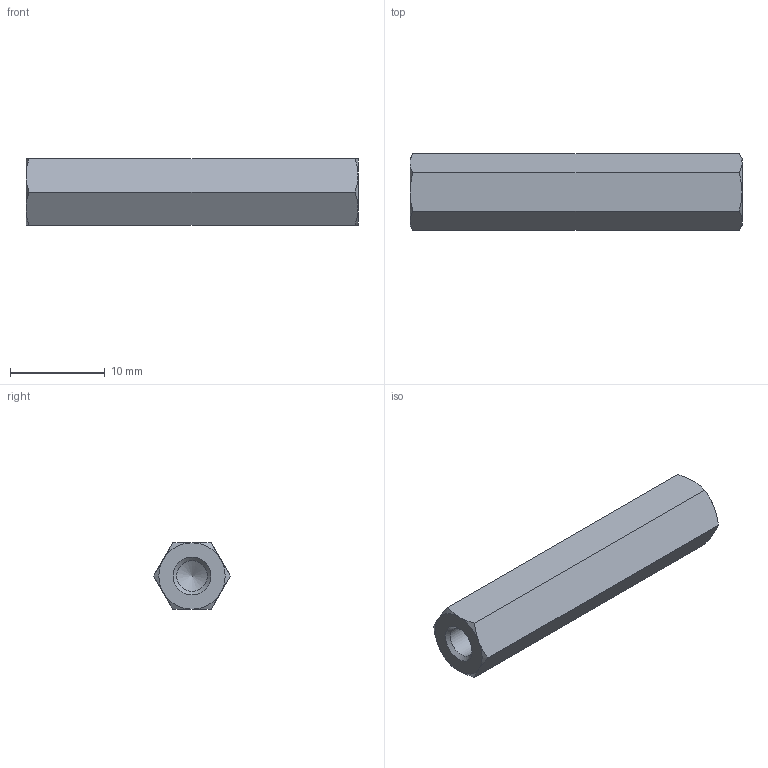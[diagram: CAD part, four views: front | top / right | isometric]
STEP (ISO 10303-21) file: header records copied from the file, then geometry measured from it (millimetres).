
FILE_DESCRIPTION( ( 'STEP AP203' ), '1' );
FILE_NAME( 'C:/Temp/Ganter_Step_05_03_2020/data/3_2/gn6220/gn6220_ni/Stainless Steel-Spacer GN 6220-NI-M4-35-A.stp', '2020-03-13T05:42:57', ( 'License CC BY-ND 4.0' ), ( 'CADENAS' ), ' ', 'PARTsolutions', ' ' );
FILE_SCHEMA( ( 'CONFIG_CONTROL_DESIGN' ) );
Length unit declared in the file: millimetre
Products named in the file (1): _Stainless Steel-Spacer GN 6220-NI-M4-35-A
Bounding box: 35 x 8.08 x 7 mm (x, y, z)
Volume: 1249.7 mm3; surface area: 1209.3 mm2
Topology: 1 solids, 1 shells, 26 faces, 57 edges, 33 vertices
Faces by surface type: cone 16, plane 8, cylinder 2
Full cylindrical faces by diameter (mm): 3.242 x2
Entity records: 750 total; most frequent: CARTESIAN_POINT 211, DIRECTION 96, ORIENTED_EDGE 96, EDGE_CURVE 48, AXIS2_PLACEMENT_3D 45, EDGE_LOOP 32, VERTEX_POINT 32, FACE_OUTER_BOUND 28
